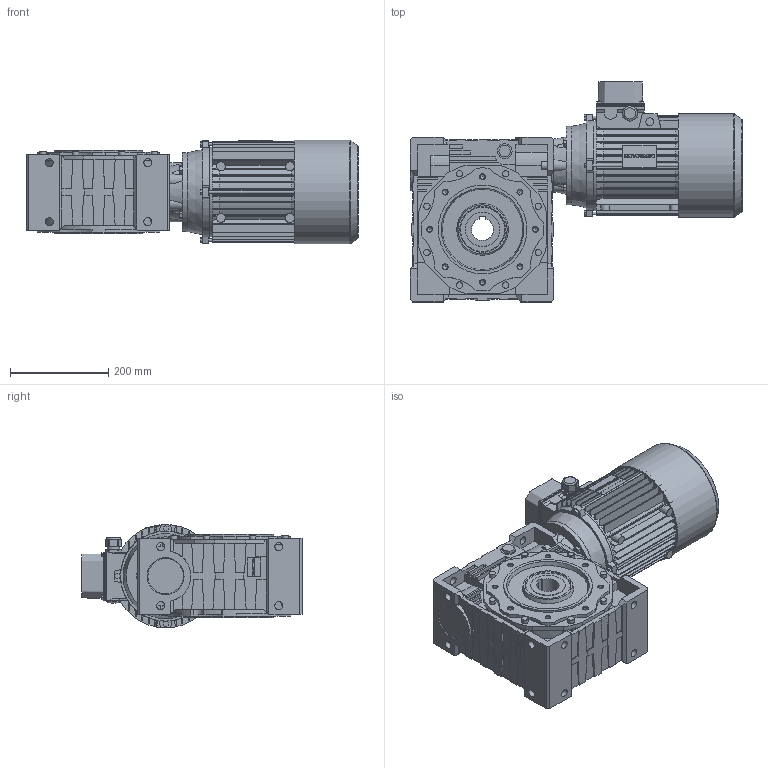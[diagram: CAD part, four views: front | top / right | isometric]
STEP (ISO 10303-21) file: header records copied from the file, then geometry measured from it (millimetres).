
FILE_DESCRIPTION(/* description */ ('STEP AP203'),/* implementation_level */ '2;1');
FILE_NAME(/* name */ 'NMRV13013024511100300TP112112M41_-----IC411NONO------STD',/* time_stamp */ '2025-12-05T05:24:45+01:00',/* author */ ('License CC BY-ND 4.0'),/* organization */ ('CADENAS'),/* preprocessor_version */ 'ST-DEVELOPER v20',/* originating_system */ 'PARTsolutions',/* authorisation */ ' ');
FILE_SCHEMA (('CONFIG_CONTROL_DESIGN'));
Length unit declared in the file: millimetre
Products named in the file (12): NMRV13013024511100300TP112112M41(-----IC411NONO------STD); Gear unit 130; 130-45 (170)alc-n; VB 130-28 (28); 130-100-112 B14; FLANGIA_TP112B14-; CARCASSA_TP112M4112IC411B1428X60NONO--; COPRIMORSETTIERA_TP112A002; PRESSACAVO_3; COP_TP_112M4_IC411_NO_-_-_-_-_STD; TIPPO_25; ALBERO_TP11228X60NO
Assembly tree (11 placements, depth 2):
  NMRV13013024511100300TP112112M41(-----IC411NONO------STD)
    Gear unit 130
    130-45 (170)alc-n
    VB 130-28 (28)
    130-100-112 B14
    FLANGIA_TP112B14-
    CARCASSA_TP112M4112IC411B1428X60NONO--
    COPRIMORSETTIERA_TP112A002
    PRESSACAVO_3
    COP_TP_112M4_IC411_NO_-_-_-_-_STD
    TIPPO_25
    ALBERO_TP11228X60NO
Bounding box: 675 x 447.6 x 211.06 mm (x, y, z)
Volume: 24745182.5 mm3; surface area: 1435412.6 mm2
Topology: 11 solids, 11 shells, 2556 faces, 6975 edges, 4593 vertices
Faces by surface type: plane 1488, cylinder 910, cone 147, torus 5, sphere 5, bspline 1
Full cylindrical faces by diameter (mm): 1.8 x1, 2.02 x1, 3.675 x3, 5.5 x2, 6 x4, 7.45 x4, 8 x8, 8.376 x1, 10.106 x16, 10.5 x1, 13 x14, 16 x14, 20 x4, 25 x3, 26 x1, 28 x1, 30 x6, 49 x1, 50 x2, 61 x1, 68 x1, 69 x1, 70 x2, 80 x1, 99 x1, 110 x2, 160 x1, 178 x2, 180 x2, 183 x2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
Entity records: 80535 total; most frequent: CARTESIAN_POINT 14829, DIRECTION 13891, ORIENTED_EDGE 13498, EDGE_CURVE 6749, AXIS2_PLACEMENT_3D 4818, VERTEX_POINT 4550, LINE 4255, VECTOR 4255
